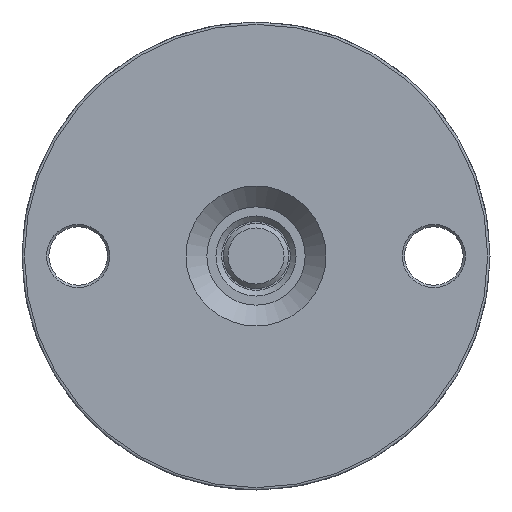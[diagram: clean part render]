
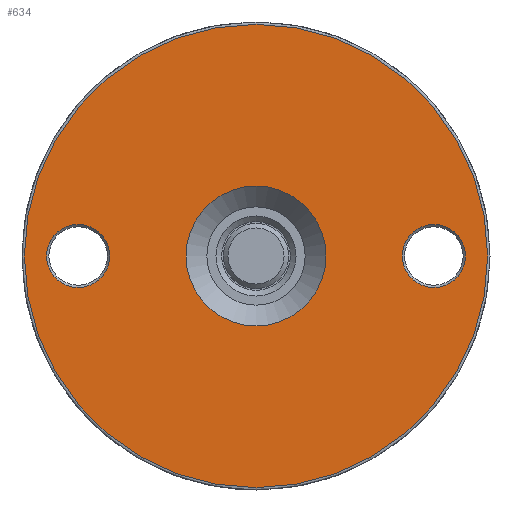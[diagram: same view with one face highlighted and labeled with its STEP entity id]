
A CAD part, left-side view. The second image highlights one B-rep face of the part: STEP entity #634.
In plain terms, the highlighted planar face has unit normal (-1, 0, 0).
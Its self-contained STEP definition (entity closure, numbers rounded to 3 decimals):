
#37=CARTESIAN_POINT('',(-525.136,-488.109,-49.5));
#38=VERTEX_POINT('',#37);
#65=CARTESIAN_POINT('',(-525.136,-488.109,49.5));
#66=VERTEX_POINT('',#65);
#67=CARTESIAN_POINT('',(-525.136,-488.109,0.0));
#68=DIRECTION('',(-1.0,0.0,0.0));
#69=DIRECTION('',(0.0,0.0,-1.0));
#70=AXIS2_PLACEMENT_3D('',#67,#68,#69);
#71=CIRCLE('',#70,49.5);
#72=EDGE_CURVE('',#66,#38,#71,.T.);
#74=CARTESIAN_POINT('',(-525.136,-488.109,0.0));
#75=DIRECTION('',(-1.0,0.0,0.0));
#76=DIRECTION('',(0.0,0.0,-1.0));
#77=AXIS2_PLACEMENT_3D('',#74,#75,#76);
#78=CIRCLE('',#77,49.5);
#79=EDGE_CURVE('',#38,#66,#78,.T.);
#500=CARTESIAN_POINT('',(-525.136,-488.109,-14.955));
#501=VERTEX_POINT('',#500);
#508=CARTESIAN_POINT('',(-525.136,-488.109,14.955));
#509=VERTEX_POINT('',#508);
#510=CARTESIAN_POINT('',(-525.136,-488.109,0.0));
#511=DIRECTION('',(-1.0,0.0,0.0));
#512=DIRECTION('',(0.0,0.0,-1.0));
#513=AXIS2_PLACEMENT_3D('',#510,#511,#512);
#514=CIRCLE('',#513,14.955);
#515=EDGE_CURVE('',#501,#509,#514,.T.);
#517=CARTESIAN_POINT('',(-525.136,-488.109,0.0));
#518=DIRECTION('',(-1.0,0.0,0.0));
#519=DIRECTION('',(0.0,0.0,-1.0));
#520=AXIS2_PLACEMENT_3D('',#517,#518,#519);
#521=CIRCLE('',#520,14.955);
#522=EDGE_CURVE('',#509,#501,#521,.T.);
#581=CARTESIAN_POINT('',(-525.136,-389.109,99.0));
#582=DIRECTION('',(1.0,0.0,0.0));
#583=DIRECTION('',(0.0,-1.0,0.0));
#584=AXIS2_PLACEMENT_3D('',#581,#582,#583);
#585=PLANE('',#584);
#586=ORIENTED_EDGE('',*,*,#79,.T.);
#587=ORIENTED_EDGE('',*,*,#72,.T.);
#588=EDGE_LOOP('',(#586,#587));
#589=FACE_OUTER_BOUND('',#588,.T.);
#590=ORIENTED_EDGE('',*,*,#522,.F.);
#591=ORIENTED_EDGE('',*,*,#515,.F.);
#592=EDGE_LOOP('',(#590,#591));
#593=FACE_BOUND('',#592,.T.);
#594=CARTESIAN_POINT('',(-525.136,-519.359,0.0));
#595=VERTEX_POINT('',#594);
#596=CARTESIAN_POINT('',(-525.136,-532.859,0.));
#597=VERTEX_POINT('',#596);
#598=CARTESIAN_POINT('',(-525.136,-526.109,0.0));
#599=DIRECTION('',(-1.0,0.0,0.0));
#600=DIRECTION('',(0.0,-1.0,0.0));
#601=AXIS2_PLACEMENT_3D('',#598,#599,#600);
#602=CIRCLE('',#601,6.75);
#603=EDGE_CURVE('',#595,#597,#602,.T.);
#604=ORIENTED_EDGE('',*,*,#603,.F.);
#605=CARTESIAN_POINT('',(-525.136,-526.109,0.0));
#606=DIRECTION('',(-1.0,0.0,0.0));
#607=DIRECTION('',(0.0,-1.0,0.0));
#608=AXIS2_PLACEMENT_3D('',#605,#606,#607);
#609=CIRCLE('',#608,6.75);
#610=EDGE_CURVE('',#597,#595,#609,.T.);
#611=ORIENTED_EDGE('',*,*,#610,.F.);
#612=EDGE_LOOP('',(#604,#611));
#613=FACE_BOUND('',#612,.T.);
#614=CARTESIAN_POINT('',(-525.136,-443.359,0.0));
#615=VERTEX_POINT('',#614);
#616=CARTESIAN_POINT('',(-525.136,-456.859,0.));
#617=VERTEX_POINT('',#616);
#618=CARTESIAN_POINT('',(-525.136,-450.109,0.0));
#619=DIRECTION('',(-1.0,0.0,0.0));
#620=DIRECTION('',(0.0,-1.0,0.0));
#621=AXIS2_PLACEMENT_3D('',#618,#619,#620);
#622=CIRCLE('',#621,6.75);
#623=EDGE_CURVE('',#615,#617,#622,.T.);
#624=ORIENTED_EDGE('',*,*,#623,.F.);
#625=CARTESIAN_POINT('',(-525.136,-450.109,0.0));
#626=DIRECTION('',(-1.0,0.0,0.0));
#627=DIRECTION('',(0.0,-1.0,0.0));
#628=AXIS2_PLACEMENT_3D('',#625,#626,#627);
#629=CIRCLE('',#628,6.75);
#630=EDGE_CURVE('',#617,#615,#629,.T.);
#631=ORIENTED_EDGE('',*,*,#630,.F.);
#632=EDGE_LOOP('',(#624,#631));
#633=FACE_BOUND('',#632,.T.);
#634=ADVANCED_FACE('',(#589,#593,#613,#633),#585,.F.);
